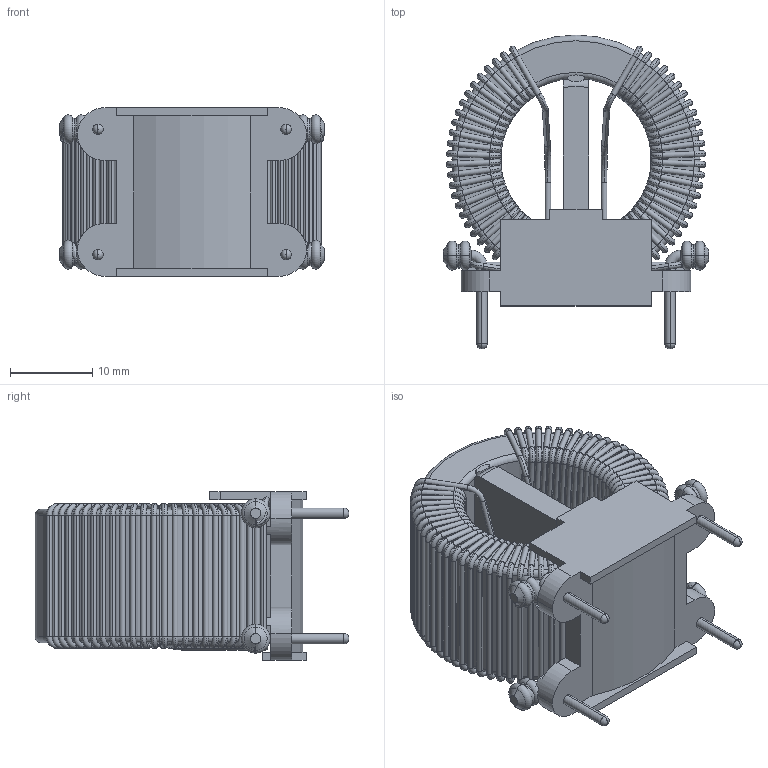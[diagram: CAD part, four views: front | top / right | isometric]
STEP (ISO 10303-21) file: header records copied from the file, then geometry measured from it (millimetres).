
FILE_DESCRIPTION (( 'STEP AP203' ), '1' );
FILE_NAME ('PM-16-123U-4A  .STEP', '2021-01-23T08:03:06', ( '' ), ( '' ), 'SwSTEP 2.0', 'SolidWorks 2015', '' );
FILE_SCHEMA (( 'CONFIG_CONTROL_DESIGN' ));
Length unit declared in the file: millimetre
Products named in the file (6): SPACER; EPOXY; PM-16-123U-4A牋; CORE; BASE; WINDING
Assembly tree (5 placements, depth 2):
  PM-16-123U-4A牋
    BASE
    CORE
    SPACER
    WINDING
    EPOXY
Bounding box: 32.32 x 38.14 x 20.5 mm (x, y, z)
Volume: 10153.2 mm3; surface area: 11589.1 mm2
Topology: 15 solids, 15 shells, 1182 faces, 3268 edges, 2116 vertices
Faces by surface type: cylinder 580, torus 488, plane 78, bspline 20, cone 16
Entity records: 44344 total; most frequent: CARTESIAN_POINT 11390, DIRECTION 8028, ORIENTED_EDGE 6536, AXIS2_PLACEMENT_3D 3646, EDGE_CURVE 3268, CIRCLE 2476, VERTEX_POINT 2116, EDGE_LOOP 1196
